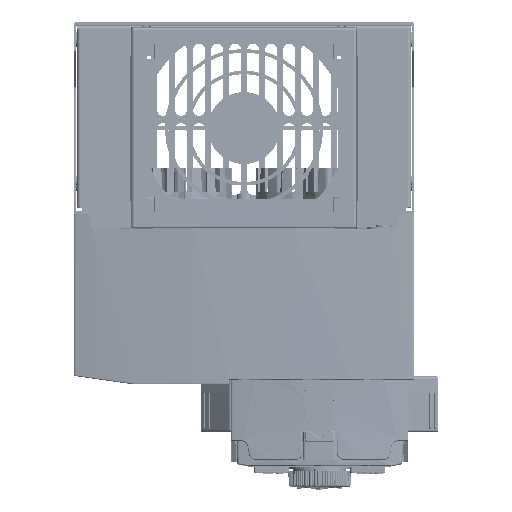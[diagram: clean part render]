
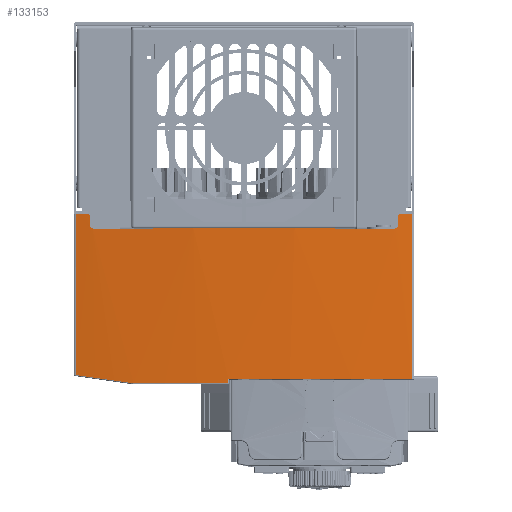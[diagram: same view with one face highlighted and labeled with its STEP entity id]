
A CAD part, top view. The second image highlights one B-rep face of the part: STEP entity #133153.
In plain terms, the highlighted conical face has half-angle 1 degrees and reference radius 505.985 mm.
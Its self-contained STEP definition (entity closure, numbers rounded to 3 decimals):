
#95662=CARTESIAN_POINT('',(0.,70.473,378.6));
#95663=DIRECTION('',(0.,1.,0.));
#95664=DIRECTION('',(-0.013,0.,-1.));
#95665=AXIS2_PLACEMENT_3D('',#95662,#95663,#95664);
#95670=CARTESIAN_POINT('',(-0.19,69.32,
388.682));
#95671=DIRECTION('',(-0.139,0.99,0.015));
#95672=DIRECTION('',(-0.089,0.002,-0.996));
#95673=AXIS2_PLACEMENT_3D('',#95670,#95671,#95672);
#95678=CARTESIAN_POINT('',(-70.138,67.035,
-121.94));
#95679=CARTESIAN_POINT('',(-70.138,59.587,
-122.071));
#95680=CARTESIAN_POINT('',(-70.138,44.689,
-122.334));
#95681=CARTESIAN_POINT('',(-70.138,22.345,
-122.727));
#95682=CARTESIAN_POINT('',(-70.139,7.448,
-122.99));
#95683=CARTESIAN_POINT('',(-70.138,0.,
-123.121));
#95688=CARTESIAN_POINT('',(70.139,0.,
-123.121));
#95689=CARTESIAN_POINT('',(70.139,7.612,-122.987));
#95690=CARTESIAN_POINT('',(70.139,22.835,
-122.719));
#95691=CARTESIAN_POINT('',(70.139,45.671,
-122.316));
#95692=CARTESIAN_POINT('',(70.139,60.894,
-122.048));
#95693=CARTESIAN_POINT('',(70.139,68.506,
-121.914));
#95698=CARTESIAN_POINT('',(-6.55,68.509,
-126.762));
#95699=CARTESIAN_POINT('',(-6.554,68.728,
-126.758));
#95700=CARTESIAN_POINT('',(-6.561,69.166,
-126.75));
#95701=CARTESIAN_POINT('',(-6.572,69.82,
-126.739));
#95702=CARTESIAN_POINT('',(-6.58,70.262,
-126.731));
#95703=CARTESIAN_POINT('',(-6.584,70.483,
-126.727));
#95708=CARTESIAN_POINT('',(0.,0.,378.6));
#95709=DIRECTION('',(0.,1.,0.));
#95710=DIRECTION('',(-0.128,0.,-0.992));
#95711=AXIS2_PLACEMENT_3D('',#95708,#95709,#95710);
#95771=CARTESIAN_POINT('',(-64.088,0.983,
-123.913));
#95772=CARTESIAN_POINT('',(-64.09,0.853,-123.915));
#95773=CARTESIAN_POINT('',(-64.145,0.595,
-123.912));
#95774=CARTESIAN_POINT('',(-64.369,0.268,
-123.889));
#95775=CARTESIAN_POINT('',(-64.699,0.051,
-123.851));
#95776=CARTESIAN_POINT('',(-64.958,0.,
-123.818));
#95777=CARTESIAN_POINT('',(-65.087,0.,
-123.801));
#95842=CARTESIAN_POINT('',(65.087,0.,
-123.801));
#95843=CARTESIAN_POINT('',(64.957,0.,
-123.818));
#95844=CARTESIAN_POINT('',(64.697,0.051,
-123.851));
#95845=CARTESIAN_POINT('',(64.366,0.271,
-123.89));
#95846=CARTESIAN_POINT('',(64.144,0.599,
-123.912));
#95847=CARTESIAN_POINT('',(64.09,0.855,
-123.915));
#95848=CARTESIAN_POINT('',(64.088,0.983,
-123.913));
#95878=CARTESIAN_POINT('',(64.088,0.983,
-123.913));
#95879=CARTESIAN_POINT('',(64.064,2.328,
-123.892));
#95880=CARTESIAN_POINT('',(64.041,3.672,
-123.871));
#95881=CARTESIAN_POINT('',(64.017,5.017,
-123.851));
#95911=CARTESIAN_POINT('',(64.017,5.017,
-123.851));
#95912=CARTESIAN_POINT('',(64.015,5.147,
-123.849));
#95913=CARTESIAN_POINT('',(63.959,5.405,
-123.851));
#95914=CARTESIAN_POINT('',(63.736,5.732,
-123.874));
#95915=CARTESIAN_POINT('',(63.406,5.949,
-123.912));
#95916=CARTESIAN_POINT('',(63.147,6.,
-123.943));
#95917=CARTESIAN_POINT('',(63.017,6.,
-123.96));
#95922=CARTESIAN_POINT('',(0.,6.,378.6));
#95923=DIRECTION('',(0.,1.,0.));
#95924=DIRECTION('',(0.124,0.,-0.992));
#95925=AXIS2_PLACEMENT_3D('',#95922,#95923,#95924);
#95945=CARTESIAN_POINT('',(-63.017,6.,
-123.96));
#95946=CARTESIAN_POINT('',(-63.148,6.,
-123.943));
#95947=CARTESIAN_POINT('',(-63.407,5.949,
-123.912));
#95948=CARTESIAN_POINT('',(-63.739,5.729,
-123.874));
#95949=CARTESIAN_POINT('',(-63.961,5.401,
-123.851));
#95950=CARTESIAN_POINT('',(-64.015,5.145,
-123.849));
#95951=CARTESIAN_POINT('',(-64.017,5.017,
-123.851));
#95974=CARTESIAN_POINT('',(-64.017,5.017,
-123.851));
#95975=CARTESIAN_POINT('',(-64.041,3.672,
-123.871));
#95976=CARTESIAN_POINT('',(-64.064,2.328,
-123.892));
#95977=CARTESIAN_POINT('',(-64.088,0.983,
-123.913));
#96012=CARTESIAN_POINT('',(0.,0.,378.6));
#96013=DIRECTION('',(0.,1.,0.));
#96014=DIRECTION('',(0.138,0.,-0.99));
#96015=AXIS2_PLACEMENT_3D('',#96012,#96013,#96014);
#98482=CARTESIAN_POINT('',(0.,68.509,378.6));
#98483=DIRECTION('',(0.,-1.,0.));
#98484=DIRECTION('',(-0.013,0.,-1.));
#98485=AXIS2_PLACEMENT_3D('',#98482,#98483,#98484);
#127053=CARTESIAN_POINT('',(-46.011,70.453,
-124.671));
#127054=VERTEX_POINT('',#127053);
#127055=CARTESIAN_POINT('',(-6.583,70.473,
-126.727));
#127056=VERTEX_POINT('',#127055);
#127059=CARTESIAN_POINT('',(-70.139,67.036,
-121.94));
#127060=VERTEX_POINT('',#127059);
#127063=VERTEX_POINT('',#95683);
#127064=CARTESIAN_POINT('',(-65.087,0.,
-123.801));
#127065=VERTEX_POINT('',#127064);
#127066=VERTEX_POINT('',#95771);
#127067=VERTEX_POINT('',#95974);
#127068=VERTEX_POINT('',#95945);
#127069=CARTESIAN_POINT('',(63.017,6.,
-123.96));
#127070=VERTEX_POINT('',#127069);
#127071=VERTEX_POINT('',#95911);
#127072=VERTEX_POINT('',#95878);
#127073=VERTEX_POINT('',#95842);
#127074=CARTESIAN_POINT('',(70.138,0.,
-123.121));
#127075=VERTEX_POINT('',#127074);
#127076=VERTEX_POINT('',#95693);
#127077=CARTESIAN_POINT('',(-6.55,68.509,
-126.762));
#127078=VERTEX_POINT('',#127077);
#133119=CARTESIAN_POINT('',(0.,35.242,378.6));
#133120=DIRECTION('',(0.,-1.,0.));
#133121=DIRECTION('',(-1.,0.,0.));
#133122=AXIS2_PLACEMENT_3D('',#133119,#133120,#133121);
#133123=CONICAL_SURFACE('',#133122,505.985,1.);
#133124=ORIENTED_EDGE('',*,*,#132969,.T.);
#133125=ORIENTED_EDGE('',*,*,#132999,.T.);
#133126=ORIENTED_EDGE('',*,*,#133110,.T.);
#133128=ORIENTED_EDGE('',*,*,#133127,.F.);
#133130=ORIENTED_EDGE('',*,*,#133129,.F.);
#133132=ORIENTED_EDGE('',*,*,#133131,.F.);
#133134=ORIENTED_EDGE('',*,*,#133133,.F.);
#133136=ORIENTED_EDGE('',*,*,#133135,.F.);
#133138=ORIENTED_EDGE('',*,*,#133137,.F.);
#133140=ORIENTED_EDGE('',*,*,#133139,.F.);
#133142=ORIENTED_EDGE('',*,*,#133141,.F.);
#133144=ORIENTED_EDGE('',*,*,#133143,.F.);
#133146=ORIENTED_EDGE('',*,*,#133145,.T.);
#133148=ORIENTED_EDGE('',*,*,#133147,.F.);
#133150=ORIENTED_EDGE('',*,*,#133149,.T.);
#133151=EDGE_LOOP('',(#133124,#133125,#133126,#133128,#133130,#133132,#133134,
#133136,#133138,#133140,#133142,#133144,#133146,#133148,#133150));
#133152=FACE_OUTER_BOUND('',#133151,.F.);
#95666=CIRCLE('',#95665,505.37);
#95674=CIRCLE('',#95673,515.396);
#95684=B_SPLINE_CURVE_WITH_KNOTS('',3,(#95678,#95679,#95680,#95681,#95682,
#95683),.UNSPECIFIED.,.F.,.F.,(4,1,1,4),(0.,0.333,
0.667,1.),.UNSPECIFIED.);
#95694=B_SPLINE_CURVE_WITH_KNOTS('',3,(#95688,#95689,#95690,#95691,#95692,
#95693),.UNSPECIFIED.,.F.,.F.,(4,1,1,4),(0.,0.333,
0.667,1.),.UNSPECIFIED.);
#95704=B_SPLINE_CURVE_WITH_KNOTS('',3,(#95698,#95699,#95700,#95701,#95702,
#95703),.UNSPECIFIED.,.F.,.F.,(4,1,1,4),(0.,0.333,
0.667,1.),.UNSPECIFIED.);
#95712=CIRCLE('',#95711,506.6);
#95778=B_SPLINE_CURVE_WITH_KNOTS('',3,(#95771,#95772,#95773,#95774,#95775,
#95776,#95777),.UNSPECIFIED.,.F.,.F.,(4,1,1,1,4),(0.,0.25,0.5,0.75,
1.),.UNSPECIFIED.);
#95849=B_SPLINE_CURVE_WITH_KNOTS('',3,(#95842,#95843,#95844,#95845,#95846,
#95847,#95848),.UNSPECIFIED.,.F.,.F.,(4,1,1,1,4),(0.,0.25,0.5,0.75,
1.),.UNSPECIFIED.);
#95882=B_SPLINE_CURVE_WITH_KNOTS('',3,(#95878,#95879,#95880,#95881),
.UNSPECIFIED.,.F.,.F.,(4,4),(0.,1.),.UNSPECIFIED.);
#95918=B_SPLINE_CURVE_WITH_KNOTS('',3,(#95911,#95912,#95913,#95914,#95915,
#95916,#95917),.UNSPECIFIED.,.F.,.F.,(4,1,1,1,4),(0.,0.25,0.5,0.75,
1.),.UNSPECIFIED.);
#95926=CIRCLE('',#95925,506.495);
#95952=B_SPLINE_CURVE_WITH_KNOTS('',3,(#95945,#95946,#95947,#95948,#95949,
#95950,#95951),.UNSPECIFIED.,.F.,.F.,(4,1,1,1,4),(0.,0.25,0.5,0.75,
1.),.UNSPECIFIED.);
#95978=B_SPLINE_CURVE_WITH_KNOTS('',3,(#95974,#95975,#95976,#95977),
.UNSPECIFIED.,.F.,.F.,(4,4),(0.,1.),.UNSPECIFIED.);
#96016=CIRCLE('',#96015,506.6);
#98486=CIRCLE('',#98485,505.404);
#132969=EDGE_CURVE('',#127056,#127054,#95666,.T.);
#132999=EDGE_CURVE('',#127054,#127060,#95674,.T.);
#133110=EDGE_CURVE('',#127060,#127063,#95684,.T.);
#133127=EDGE_CURVE('',#127065,#127063,#95712,.T.);
#133129=EDGE_CURVE('',#127066,#127065,#95778,.T.);
#133131=EDGE_CURVE('',#127067,#127066,#95978,.T.);
#133133=EDGE_CURVE('',#127068,#127067,#95952,.T.);
#133135=EDGE_CURVE('',#127070,#127068,#95926,.T.);
#133137=EDGE_CURVE('',#127071,#127070,#95918,.T.);
#133139=EDGE_CURVE('',#127072,#127071,#95882,.T.);
#133141=EDGE_CURVE('',#127073,#127072,#95849,.T.);
#133143=EDGE_CURVE('',#127075,#127073,#96016,.T.);
#133145=EDGE_CURVE('',#127075,#127076,#95694,.T.);
#133147=EDGE_CURVE('',#127078,#127076,#98486,.T.);
#133149=EDGE_CURVE('',#127078,#127056,#95704,.T.);
#133153=ADVANCED_FACE('',(#133152),#133123,.T.);
